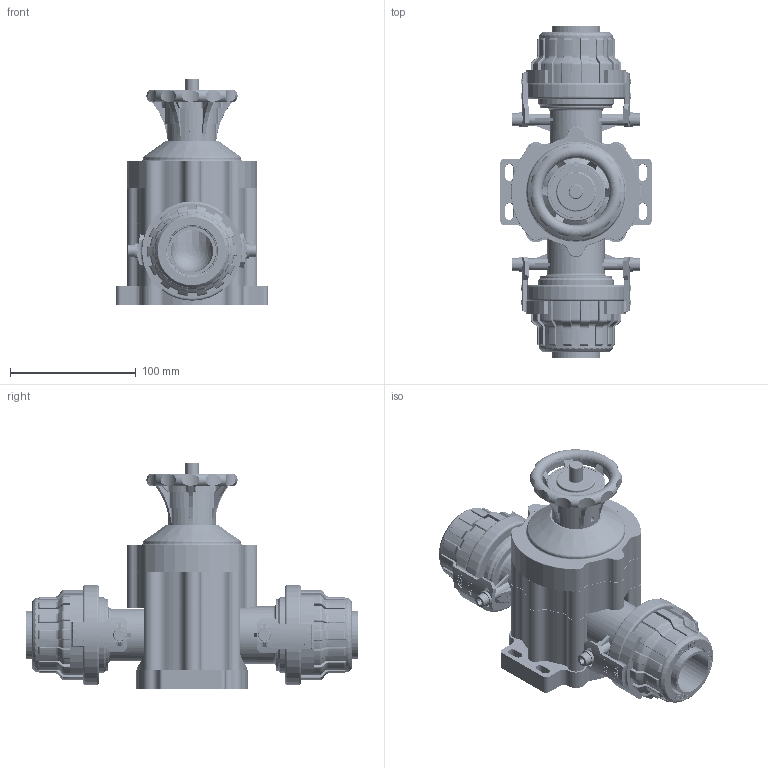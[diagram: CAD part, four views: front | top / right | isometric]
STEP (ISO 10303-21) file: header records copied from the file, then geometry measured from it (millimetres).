
FILE_DESCRIPTION(/* description */ (''),/* implementation_level */ '2;1');
FILE_NAME(/* name */ '112 MV.stp',/* time_stamp */ '2020-01-15T15:54:33+09:00',/* author */ (''),/* organization */ (''),/* preprocessor_version */ 'ST-DEVELOPER v11',/* originating_system */ 'SIEMENS PLM Software NX 7.5',/* authorisation */ '');
FILE_SCHEMA (('AUTOMOTIVE_DESIGN { 1 0 10303 214 1 1 1 1 }'));
Length unit declared in the file: millimetre
Products named in the file (40): Lock Pin(1.12)2_2; Tube(1.12)_1; Sleeve Ring(1.12)_1; NUT(1.12 inch)_1; Lock Pin(1.12)2_1; Lock Pin(1.12)2; Tube(1.12); Sleeve Ring(1.12); NUT(1.12 inch); Middle Case(1.12); 1.1-2Inch Base (Final); BOLT M5(25mm)MV_1; BOLT M5(70mm)MV_1; End Cap(9pi_3); BOLT M5(25mm)MV; BOLT M5(70mm)MV; BOLT M6(16mm); Indicator Cap(50A-15A); End Cap; ANSI B18.3.6M - M5x0.8 x 8(1); -Ring(1.12); Assy(1.12); Shaft2_1.12(0530); PC CAP(1.12); Shaft2 Shield; __1.12; Indicator__1.12; Number Plate__1.12; Handle_1.12(1); Shaft1_1.12(0530); Top Case_1.12; Compress_1.12; 114x1.9t -102-0206; 1.12 - 75pi; Middle Case(1.12) Assy; Diaphgram1(1.12)-0521; 1.12  BODY; 1.12 inch NUT Assy_1; 1.12 inch NUT Assy; 112mv_stp
Assembly tree (60 placements, depth 3):
  112mv_stp
    1.12  BODY
    Diaphgram1(1.12)-0521
    Middle Case(1.12) Assy
    1.12 - 75pi
    114x1.9t -102-0206
    Compress_1.12
    Top Case_1.12
    Shaft1_1.12(0530)
    Handle_1.12(1)
    Number Plate__1.12
    Indicator__1.12
    __1.12
    1.12 inch NUT Assy
      NUT(1.12 inch)
      Sleeve Ring(1.12)
      Tube(1.12)
      Lock Pin(1.12)2
      Lock Pin(1.12)2_1
    1.12 inch NUT Assy_1
      NUT(1.12 inch)_1
      Sleeve Ring(1.12)_1
      Tube(1.12)_1
      Lock Pin(1.12)2_1
      Lock Pin(1.12)2_2
    Shaft2 Shield
    PC CAP(1.12)
    Shaft2_1.12(0530)
    Assy(1.12)
    -Ring(1.12)
    ANSI B18.3.6M - M5x0.8 x 8(1)
    End Cap
    Indicator Cap(50A-15A)
    BOLT M6(16mm)  x4
    BOLT M5(70mm)MV
    BOLT M5(25mm)MV
    End Cap(9pi_3)  x8
    BOLT M5(70mm)MV_1  x5
    BOLT M5(25mm)MV_1  x7
    1.1-2Inch Base (Final)
    Middle Case(1.12)
Bounding box: 120 x 263.5 x 179.67 mm (x, y, z)
Volume: 1017705 mm3; surface area: 453462.2 mm2
Topology: 56 solids, 56 shells, 5445 faces, 13607 edges, 8401 vertices
Faces by surface type: plane 1785, cylinder 1468, bspline 1037, torus 569, cone 335, sphere 251
Full cylindrical faces by diameter (mm): 2.5 x12, 2.6 x1, 3.464 x14, 4.134 x7, 4.3 x1, 5 x15, 5.333 x1, 5.5 x22, 6 x6, 6.5 x1, 6.6 x8, 6.667 x1, 7 x2, 8 x1, 8.376 x1, 8.5 x14, 8.667 x1, 9 x23, 9.5 x4, 10 x6, 10.106 x1, 10.667 x2, 11.333 x1, 12 x6, 12.667 x1, 13.333 x1, 16.4 x1, 16.667 x1, 20 x3, 20.2 x1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
Entity records: 216271 total; most frequent: CARTESIAN_POINT 93838, ORIENTED_EDGE 24366, DIRECTION 21855, EDGE_CURVE 12183, AXIS2_PLACEMENT_3D 8463, VERTEX_POINT 7697, EDGE_LOOP 5742, ADVANCED_FACE 5073
